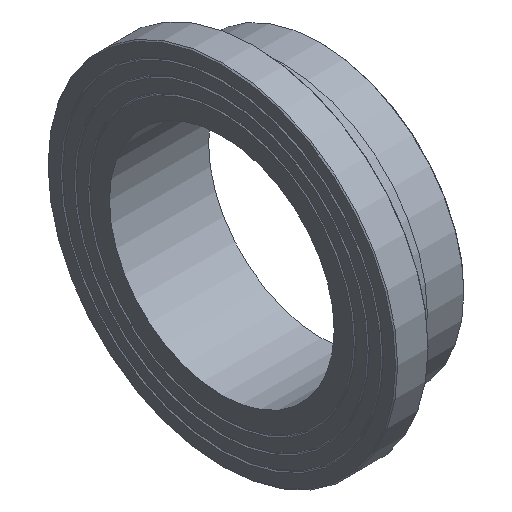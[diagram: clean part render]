
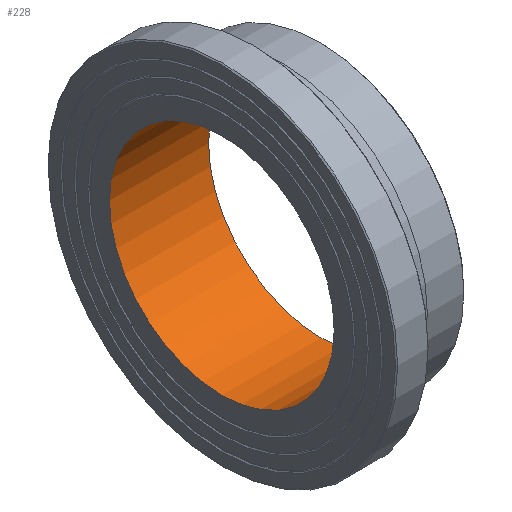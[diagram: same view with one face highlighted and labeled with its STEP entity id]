
A CAD part, isometric view. The second image highlights one B-rep face of the part: STEP entity #228.
In plain terms, the highlighted cylindrical face has radius 155.3 mm (diameter 310.6 mm), a full revolution.
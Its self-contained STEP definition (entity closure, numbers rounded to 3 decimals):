
#33=CYLINDRICAL_SURFACE('',#274,155.3);
#50=ORIENTED_EDGE('',*,*,#79,.F.);
#51=ORIENTED_EDGE('',*,*,#76,.T.);
#76=EDGE_CURVE('',#96,#96,#116,.T.);
#79=EDGE_CURVE('',#99,#99,#119,.T.);
#96=VERTEX_POINT('',#383);
#99=VERTEX_POINT('',#390);
#116=CIRCLE('',#257,155.3);
#119=CIRCLE('',#261,155.3);
#150=EDGE_LOOP('',(#50));
#151=EDGE_LOOP('',(#51));
#190=FACE_BOUND('',#150,.T.);
#191=FACE_BOUND('',#151,.T.);
#228=ADVANCED_FACE('',(#190,#191),#33,.F.);
#257=AXIS2_PLACEMENT_3D('',#382,#303,#304);
#261=AXIS2_PLACEMENT_3D('',#389,#311,#312);
#274=AXIS2_PLACEMENT_3D('',#410,#337,#338);
#303=DIRECTION('',(-1.,0.,0.));
#304=DIRECTION('',(0.,0.,1.));
#311=DIRECTION('',(-1.,0.,0.));
#312=DIRECTION('',(0.,0.,1.));
#337=DIRECTION('',(-1.,0.,0.));
#338=DIRECTION('',(0.,0.,1.));
#382=CARTESIAN_POINT('',(0.,0.,0.));
#383=CARTESIAN_POINT('',(0.,0.,155.3));
#389=CARTESIAN_POINT('',(137.,0.,0.));
#390=CARTESIAN_POINT('',(137.,0.,155.3));
#410=CARTESIAN_POINT('',(60.,0.,0.));
